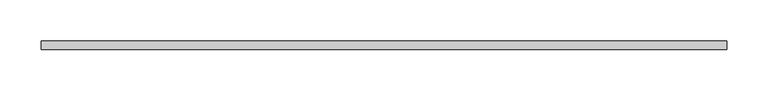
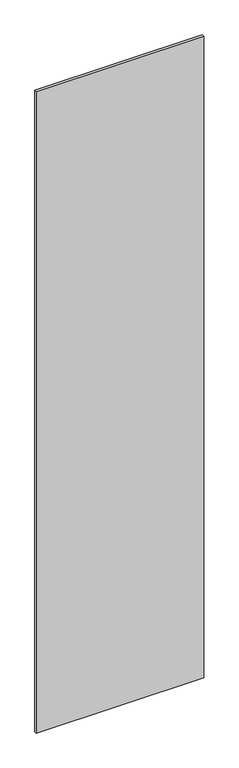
"""IFC4 building model written with IfcOpenShell, lengths in millimetres: plate geometry, システム パネル : 標準."""

from ifc_helpers import new_model, si_unit, origin, origin_with_axes, place, context, project, spatial, polyline, outline, extrude, source, transform, mapped, element, save


def plate_c7cfdf11(model_context):
    return source(origin(), model_context, "Body", "SweptSolid", [
        extrude(outline(polyline([(415.0, -5.0), (-415.0, -5.0), (-415.0, 5.0), (415.0, 5.0), (415.0, -5.0)])), origin_with_axes(), (0.0, 0.0, 1.0), 3360.0),
    ])


if __name__ == "__main__":
    model = new_model("IFC4")
    model_context = context("Model", 3, world=origin())
    ifc_project = project(units=[si_unit("LENGTHUNIT", "METRE", prefix="MILLI")], contexts=[model_context])
    site = spatial("IfcSite", under=ifc_project)
    building = spatial("IfcBuilding", under=site)
    placement = place(None, origin())
    plate_shape = plate_c7cfdf11(model_context)
    element("IfcPlate", 1, ObjectType="システム パネル : 標準", at=placement, inside=building, context=model_context, shape_type="MappedRepresentation", body=[
        mapped(plate_shape, transform((0.0, 0.0, 0.0), x_axis=(1.0, 0.0, 0.0), y_axis=(0.0, 1.0, 0.0), z_axis=(0.0, 0.0, 1.0))),
    ])
    save(model, "model.ifc")
